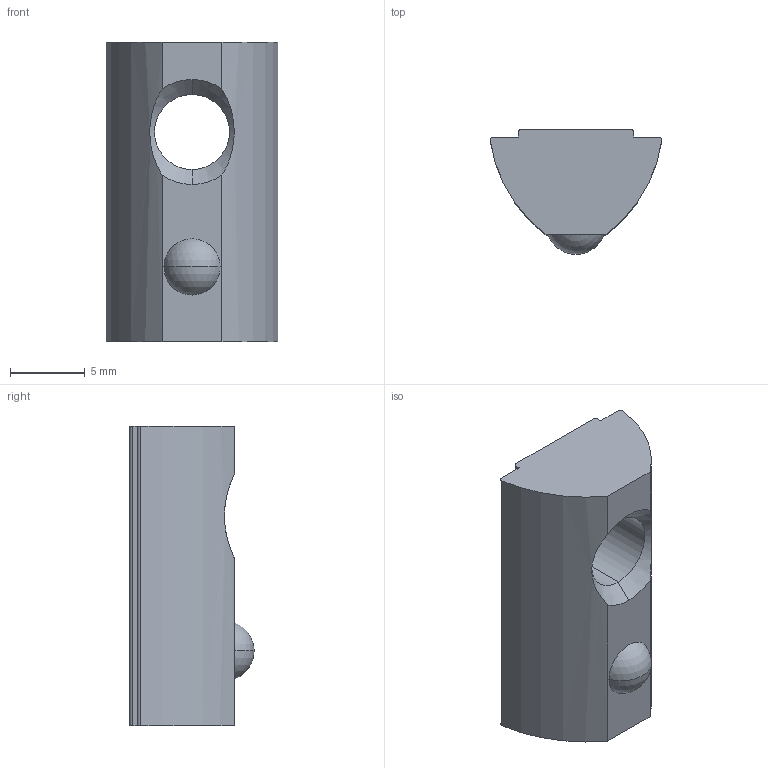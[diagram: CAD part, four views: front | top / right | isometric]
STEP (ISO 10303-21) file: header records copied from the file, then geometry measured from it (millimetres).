
FILE_DESCRIPTION (( 'STEP AP203' ), '1' );
FILE_NAME ('LIMA-LHNR6-83030.STEP', '2018-03-15T12:18:43', ( '' ), ( '' ), 'SwSTEP 2.0', 'SolidWorks 2013', '' );
FILE_SCHEMA (( 'CONFIG_CONTROL_DESIGN' ));
Length unit declared in the file: millimetre
Products named in the file (1): LIMA-LHNR6-83030
Bounding box: 11.44 x 8.3 x 20 mm (x, y, z)
Volume: 1102.6 mm3; surface area: 814.1 mm2
Topology: 1 solids, 1 shells, 24 faces, 63 edges, 41 vertices
Faces by surface type: cylinder 9, plane 9, cone 4, sphere 2
Entity records: 854 total; most frequent: CARTESIAN_POINT 155, DIRECTION 139, ORIENTED_EDGE 126, EDGE_CURVE 63, AXIS2_PLACEMENT_3D 53, VERTEX_POINT 41, VECTOR 33, LINE 33
